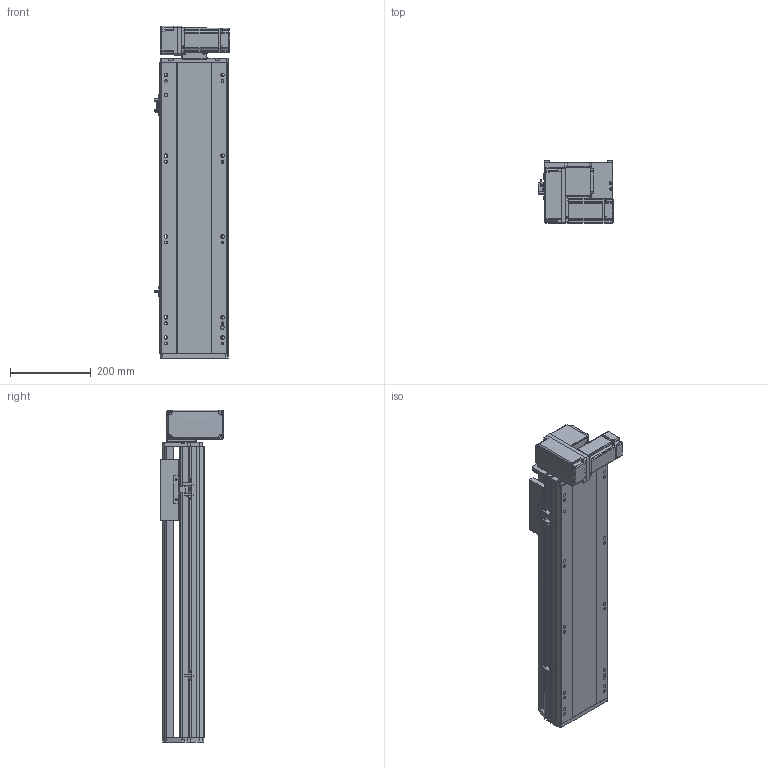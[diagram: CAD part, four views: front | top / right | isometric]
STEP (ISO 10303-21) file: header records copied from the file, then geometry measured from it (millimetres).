
FILE_DESCRIPTION (( 'STEP AP214' ), '1' );
FILE_NAME ('RTB17S-XX-450-LM-M40-C4.STEP', '2025-12-11T06:22:35', ( '' ), ( '' ), 'SwSTEP 2.0', 'SolidWorks 2018', '' );
FILE_SCHEMA (( 'AUTOMOTIVE_DESIGN' ));
Length unit declared in the file: millimetre
Products named in the file (14): RTB17S-L-001耜醱啣^RTB17S-XX-XX-LM-M40-C4; OMRON EE-SX672 传感器^RTB17S-XX-XX-LM-M40-C4; RTB17S-LM-々湍釱蚾饜-400W^RTB17S-XX-XX-LM-M40-C4; RTB14-L-008-M20--萇儂啣^RTB17S-LM-々湍釱蚾饜-400W_RTB17S-XX-XX-LM-M40-C4; RTH13-BL-012覜茼え俋离^RTB17S-XX-XX-LM-M40-C4; RTB17S-L-007奻裔^RTB17S-XX-XX-LM-M40-C4; RMP17S-L-014-T20--々湍釱^RTB17S-LM-々湍釱蚾饜-400W_RTB17S-XX-XX-LM-M40-C4; RTB14-L-005P--轴承塑胶压盖^RTB17S-LM-皮带座装配-400W_RTB17S-XX-XX-LM-M40-C4; RTB17-R-011菁釱^RTB17S-XX-XX-LM-M40-C4; 400W侜督萇儂^RTB17S-XX-XX-LM-M40-C4; RTB17S-XX-450-LM-M40-C4; RTB14-L-018P^RTB17S-LM-々湍釱蚾饜-400W_RTB17S-XX-XX-LM-M40-C4; RTB14-L-017P^RTB17S-LM-々湍釱蚾饜-400W_RTB17S-XX-XX-LM-M40-C4; RTB17S-L-004佪裝蹟譫蟀諉釱^RTB17S-XX-XX-LM-M40-C4
Assembly tree (16 placements, depth 3):
  RTB17S-XX-450-LM-M40-C4
    RTB17-R-011菁釱^RTB17S-XX-XX-LM-M40-C4
    RTB17S-L-007奻裔^RTB17S-XX-XX-LM-M40-C4
    OMRON EE-SX672 传感器^RTB17S-XX-XX-LM-M40-C4  x3
    RTH13-BL-012覜茼え俋离^RTB17S-XX-XX-LM-M40-C4
    RTB17S-L-001耜醱啣^RTB17S-XX-XX-LM-M40-C4
    400W侜督萇儂^RTB17S-XX-XX-LM-M40-C4
    RTB17S-L-004佪裝蹟譫蟀諉釱^RTB17S-XX-XX-LM-M40-C4
    RTB17S-LM-々湍釱蚾饜-400W^RTB17S-XX-XX-LM-M40-C4
      RMP17S-L-014-T20--々湍釱^RTB17S-LM-々湍釱蚾饜-400W_RTB17S-XX-XX-LM-M40-C4
      RTB14-L-005P--轴承塑胶压盖^RTB17S-LM-皮带座装配-400W_RTB17S-XX-XX-LM-M40-C4
      RTB14-L-008-M20--萇儂啣^RTB17S-LM-々湍釱蚾饜-400W_RTB17S-XX-XX-LM-M40-C4
      RTB14-L-017P^RTB17S-LM-々湍釱蚾饜-400W_RTB17S-XX-XX-LM-M40-C4  x2
      RTB14-L-018P^RTB17S-LM-々湍釱蚾饜-400W_RTB17S-XX-XX-LM-M40-C4
Bounding box: 186 x 156.5 x 822.5 mm (x, y, z)
Volume: 7883927 mm3; surface area: 1010753.2 mm2
Topology: 15 solids, 15 shells, 2173 faces, 5979 edges, 3897 vertices
Faces by surface type: plane 1064, cylinder 661, bspline 301, cone 139, torus 8
Entity records: 61097 total; most frequent: CARTESIAN_POINT 16984, ORIENTED_EDGE 8802, DIRECTION 8216, EDGE_CURVE 4401, VERTEX_POINT 2885, AXIS2_PLACEMENT_3D 2815, LINE 2586, VECTOR 2586
